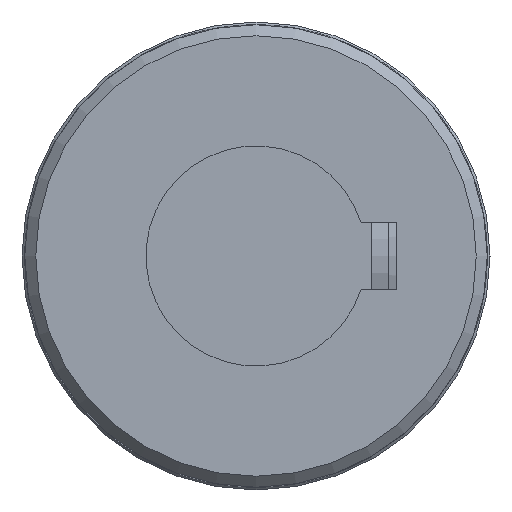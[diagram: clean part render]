
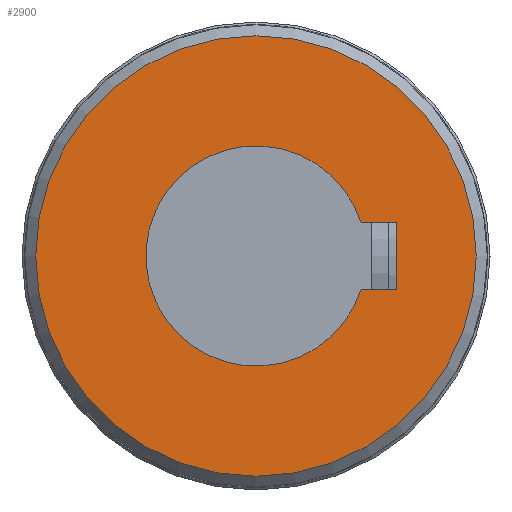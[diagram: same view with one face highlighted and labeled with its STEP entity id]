
A CAD part, left-side view. The second image highlights one B-rep face of the part: STEP entity #2900.
In plain terms, the highlighted planar face has unit normal (-1, 0, 0) as drawn and (0, -1, 0) by its records, which use the part's own axes.
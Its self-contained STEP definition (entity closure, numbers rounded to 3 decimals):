
#205=FACE_BOUND('',#675,.T.);
#297=PLANE('',#3208);
#456=FACE_OUTER_BOUND('',#674,.T.);
#674=EDGE_LOOP('',(#2554));
#675=EDGE_LOOP('',(#2555,#2556,#2557,#2558));
#844=LINE('',#5307,#997);
#848=LINE('',#5330,#1001);
#850=LINE('',#5338,#1003);
#997=VECTOR('',#3925,3.261);
#1001=VECTOR('',#3937,6.);
#1003=VECTOR('',#3941,3.261);
#1135=CIRCLE('',#3197,10.);
#1139=CIRCLE('',#3206,20.);
#1390=VERTEX_POINT('',#5304);
#1391=VERTEX_POINT('',#5306);
#1394=VERTEX_POINT('',#5316);
#1396=VERTEX_POINT('',#5328);
#1401=VERTEX_POINT('',#5385);
#1772=EDGE_CURVE('',#1391,#1390,#844,.T.);
#1776=EDGE_CURVE('',#1394,#1391,#1135,.T.);
#1780=EDGE_CURVE('',#1390,#1396,#848,.T.);
#1783=EDGE_CURVE('',#1396,#1394,#850,.T.);
#1789=EDGE_CURVE('',#1401,#1401,#1139,.T.);
#2554=ORIENTED_EDGE('',*,*,#1789,.F.);
#2555=ORIENTED_EDGE('',*,*,#1780,.T.);
#2556=ORIENTED_EDGE('',*,*,#1783,.T.);
#2557=ORIENTED_EDGE('',*,*,#1776,.T.);
#2558=ORIENTED_EDGE('',*,*,#1772,.T.);
#2900=ADVANCED_FACE('',(#456,#205),#297,.F.);
#3197=AXIS2_PLACEMENT_3D('',#5317,#3931,#3932);
#3206=AXIS2_PLACEMENT_3D('',#5386,#3954,#3955);
#3208=AXIS2_PLACEMENT_3D('',#5610,#3962,#3963);
#3925=DIRECTION('',(0.,0.,-1.));
#3931=DIRECTION('center_axis',(0.,1.,0.));
#3932=DIRECTION('ref_axis',(-0.3,0.,0.954));
#3937=DIRECTION('',(-1.,0.,0.));
#3941=DIRECTION('',(0.,0.,1.));
#3954=DIRECTION('center_axis',(0.,1.,0.));
#3955=DIRECTION('ref_axis',(1.,0.,0.));
#3962=DIRECTION('center_axis',(0.,1.,0.));
#3963=DIRECTION('ref_axis',(0.,0.,1.));
#5304=CARTESIAN_POINT('',(3.,-51.,-12.8));
#5306=CARTESIAN_POINT('',(3.,-51.,-9.539));
#5307=CARTESIAN_POINT('',(3.,-51.,-4.77));
#5316=CARTESIAN_POINT('',(-3.,-51.,-9.539));
#5317=CARTESIAN_POINT('Origin',(0.,-51.,0.));
#5328=CARTESIAN_POINT('',(-3.,-51.,-12.8));
#5330=CARTESIAN_POINT('',(1.5,-51.,-12.8));
#5338=CARTESIAN_POINT('',(-3.,-51.,-6.4));
#5385=CARTESIAN_POINT('',(-20.,-51.,0.));
#5386=CARTESIAN_POINT('Origin',(0.,-51.,0.));
#5610=CARTESIAN_POINT('Origin',(0.,-51.,0.));
